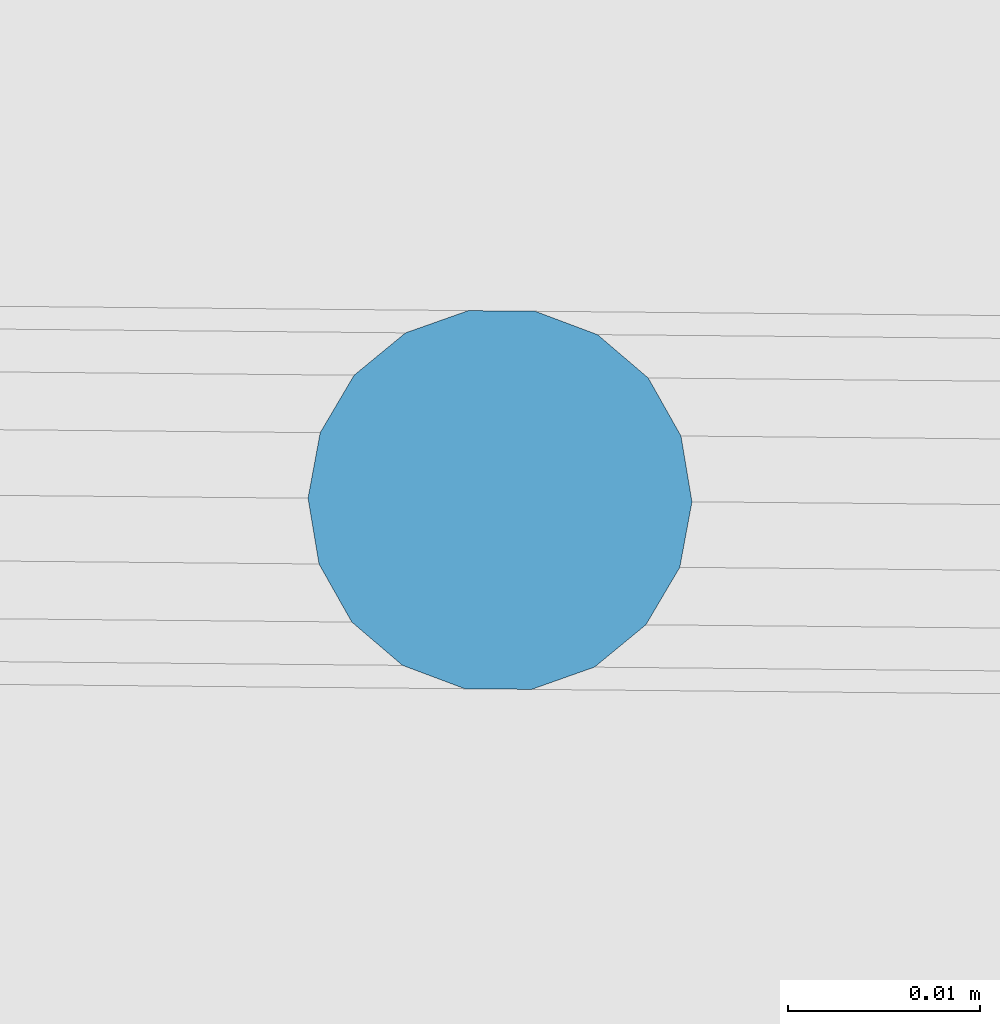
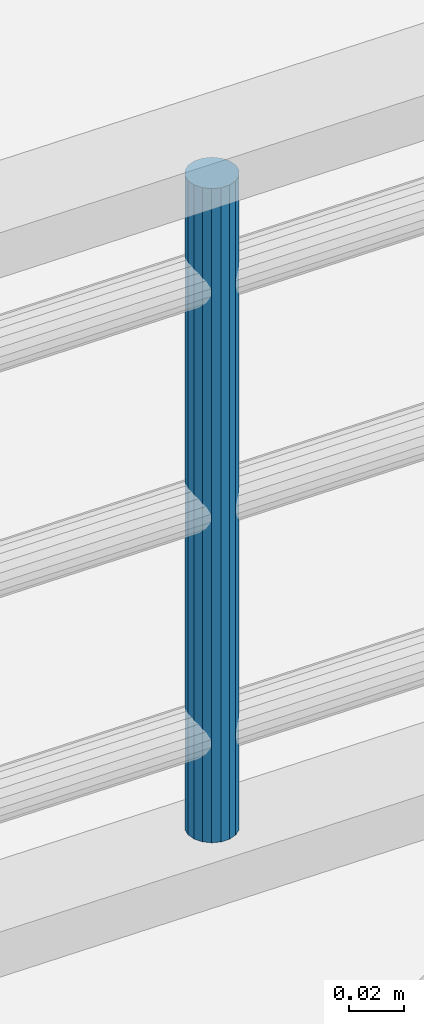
# One storey, part 32 of 72: 1 member, 1 element without a shape of its own.
"""IFC2X3 building model written with IfcOpenShell, lengths in centimetres."""

from ifc_helpers import new_model, entity, si_unit, converted_unit, direction, frame, origin, origin_with_axes, place, context, subcontext, project, spatial, faceted_brep, material, type_object, element, aggregate, save


model = new_model("IFC2X3")

# Units and contexts
model_context = context("Model", 3, precision=0.0001, world=origin(), true_north=direction((0.225632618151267, 0.974212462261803, 0.0)))
body_context = subcontext(model_context, "Body", "Model", "MODEL_VIEW")
ifc_project = project(units=[si_unit("LENGTHUNIT", "METRE", prefix="CENTI"), si_unit("AREAUNIT", "SQUARE_METRE", prefix="CENTI"), si_unit("VOLUMEUNIT", "CUBIC_METRE", prefix="CENTI"), converted_unit("PLANEANGLEUNIT", "DEGREE", entity("IfcRatioMeasure", 0.0174532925), si_unit("PLANEANGLEUNIT", "RADIAN"), dimensions=[0, 0, 0, 0, 0, 0, 0])], contexts=[model_context])

# Site, building, storey
site_placement = place(None, origin_with_axes())
site = spatial("IfcSite", under=ifc_project, at=site_placement, Name="Default Site", CompositionType="ELEMENT")
building_placement = place(site_placement, origin_with_axes())
building = spatial("IfcBuilding", under=site, at=building_placement, Name="Default Building", CompositionType="ELEMENT")
storey_placement = place(building_placement, frame((0.0, 0.0, 853.910374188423), z_axis=(0.0, 0.0, 1.0), x_axis=(1.0, 0.0, 0.0)))
storey = spatial("IfcBuildingStorey", under=building, at=storey_placement, Name="Niveau 2", CompositionType="ELEMENT", Elevation=853.910374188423)

# Assembly, member
building_element_proxy_type = type_object("IfcBuildingElementProxyType", Name="Type Object", PredefinedType="NOTDEFINED")
assembly_placement = place(storey_placement, frame((1081.02208703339, -852.418210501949, 11.9999999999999), z_axis=(0.0, 0.0, 1.0), x_axis=(-0.999957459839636, 0.00922380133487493, 0.0)))
assembly = element("IfcElementAssembly", 1, at=assembly_placement, inside=storey, type_object=building_element_proxy_type, Name="Panneau 1702017", ObjectType="Precast panel", PredefinedType="USERDEFINED")
ifc_material = material(Name="Aluminium satiné")
member_placement = place(assembly_placement, frame((27.4396926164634, 0.342020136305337, 31.000000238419), z_axis=(0.0, 0.0, 1.0), x_axis=(0.500002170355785, -0.866024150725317, 0.0)))
member = element("IfcMember", 2, at=member_placement, material=ifc_material, Name="4294967187", context=body_context, shape_type="Brep", body=[
    faceted_brep([(-1.72084568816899e-13, -2.72004641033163e-13, 1.66533453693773e-13), (-0.347296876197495, -1.99840144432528e-13, 1.66533453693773e-13), (-0.673647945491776, -0.118779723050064, 1.66533453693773e-13), (-0.939693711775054, -0.342018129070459, 1.66533453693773e-13), (-1.11334216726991, -0.642784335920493, 1.66533453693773e-13), (-1.17365112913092, -0.984805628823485, 1.66533453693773e-13), (-1.11334356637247, -1.32682410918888, 1.66533453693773e-13), (-0.939696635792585, -1.62759289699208, 1.66533453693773e-13), (-0.673653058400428, -1.85083187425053, 1.66533453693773e-13), (-0.347301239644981, -1.96961451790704, 1.66533453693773e-13), (-4.36344765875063e-06, -1.96961451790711, 1.66533453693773e-13), (0.32634670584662, -1.85083479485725, 1.66533453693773e-13), (0.592392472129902, -1.62759638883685, 1.66533453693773e-13), (0.766040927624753, -1.32683018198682, 1.66533453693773e-13), (0.826349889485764, -0.98480888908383, 1.66533453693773e-13), (0.766042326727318, -0.64279040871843, 1.66533453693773e-13), (0.592395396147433, -0.342021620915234, 1.66533453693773e-13), (0.326351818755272, -0.118782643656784, 1.66533453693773e-13), (0.326351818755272, -0.118782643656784, -29.0000002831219), (0.592395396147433, -0.342021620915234, -29.0000002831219), (0.766042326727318, -0.64279040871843, -29.0000002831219), (0.826349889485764, -0.98480888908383, -29.0000002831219), (0.766040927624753, -1.32683018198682, -29.0000002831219), (0.592392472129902, -1.62759638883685, -29.0000002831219), (0.32634670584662, -1.85083479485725, -29.0000002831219), (-4.36344765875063e-06, -1.96961451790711, -29.0000002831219), (-0.347301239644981, -1.96961451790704, -29.0000002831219), (-0.673653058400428, -1.85083187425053, -29.0000002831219), (-0.939696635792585, -1.62759289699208, -29.0000002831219), (-1.11334356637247, -1.32682410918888, -29.0000002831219), (-1.17365112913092, -0.984805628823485, -29.0000002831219), (-1.11334216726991, -0.642784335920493, -29.0000002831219), (-0.939693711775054, -0.342018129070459, -29.0000002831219), (-0.673647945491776, -0.118779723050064, -29.0000002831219), (-0.347296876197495, -1.99840144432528e-13, -29.0000002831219), (-1.72084568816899e-13, -2.72004641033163e-13, -29.0000002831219), (0.59239577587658, -0.342021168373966, 1.66533453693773e-13), (0.59239577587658, -0.342021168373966, -29.0000002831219), (0.766043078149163, -0.642789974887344, 1.66533453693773e-13), (0.766043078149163, -0.642789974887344, -29.0000002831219), (0.826348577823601, -0.9848091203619, 1.66533453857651e-13), (0.826348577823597, -0.984809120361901, -29.0000002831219), (0.766042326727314, -0.642790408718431, -29.0000002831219), (0.766041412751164, -1.32683026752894, 1.66533453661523e-13), (0.766041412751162, -1.32683026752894, -29.0000002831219), (0.826349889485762, -0.984808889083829, -29.0000002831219), (0.5923924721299, -1.62759638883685, 1.66533453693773e-13), (0.5923924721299, -1.62759638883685, -29.0000002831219), (0.326346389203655, -1.85083441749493, 1.66533453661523e-13), (0.326346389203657, -1.85083441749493, -29.0000002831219), (0.592392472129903, -1.62759638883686, -29.0000002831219), (-3.90791553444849e-06, -1.96961576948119, 1.66533453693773e-13), (-3.90791553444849e-06, -1.96961576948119, -29.0000002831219), (-0.347301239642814, -1.96961365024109, 1.66533453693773e-13), (-0.347301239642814, -1.96961365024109, -29.0000002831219), (-0.673652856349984, -1.85083131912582, 1.66533453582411e-13), (-0.673652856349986, -1.85083131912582, -29.0000002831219), (-0.347301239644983, -1.96961451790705, -29.0000002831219), (-0.939697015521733, -1.62759334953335, 1.66533453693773e-13), (-0.939697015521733, -1.62759334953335, -29.0000002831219), (-1.11334431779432, -1.32682454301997, 1.66533453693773e-13), (-1.11334431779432, -1.32682454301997, -29.0000002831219), (-1.17364981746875, -0.984805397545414, 1.66533453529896e-13), (-1.17364981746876, -0.984805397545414, -29.0000002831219), (-1.11334356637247, -1.32682410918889, -29.0000002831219), (-1.11334265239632, -0.642784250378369, 1.66533453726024e-13), (-1.11334265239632, -0.642784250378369, -29.0000002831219), (-1.17365112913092, -0.984805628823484, -29.0000002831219), (-0.939693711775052, -0.34201812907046, 1.66533453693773e-13), (-0.939693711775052, -0.34201812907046, -29.0000002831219), (-0.67364762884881, -0.118780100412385, 1.66533453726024e-13), (-0.673647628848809, -0.118780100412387, -29.0000002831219), (-0.939693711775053, -0.342018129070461, -29.0000002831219), (-0.347297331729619, 1.25157387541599e-06, 1.66533453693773e-13), (-0.347297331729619, 1.25157387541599e-06, -29.0000002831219), (-2.33980998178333e-12, -8.67666222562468e-07, 1.66533453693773e-13), (-2.33980998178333e-12, -8.67666222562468e-07, -29.0000002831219), (0.326351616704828, -0.118783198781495, 1.66533453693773e-13), (0.326351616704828, -0.118783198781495, -29.0000002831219)], [[[0, 1, 2, 3, 4, 5, 6, 7, 8, 9, 10, 11, 12, 13, 14, 15, 16, 17]], [[18, 19, 20, 21, 22, 23, 24, 25, 26, 27, 28, 29, 30, 31, 32, 33, 34, 35]], [[17, 36, 37, 18]], [[16, 38, 39, 19]], [[15, 40, 41, 42]], [[14, 43, 44, 45]], [[13, 46, 47, 22]], [[12, 48, 49, 50]], [[11, 51, 52, 24]], [[10, 53, 54, 25]], [[9, 55, 56, 57]], [[8, 58, 59, 27]], [[7, 60, 61, 28]], [[6, 62, 63, 64]], [[5, 65, 66, 67]], [[4, 68, 69, 31]], [[3, 70, 71, 72]], [[2, 73, 74, 33]], [[1, 75, 76, 34]], [[0, 77, 78, 35]]]),
])
aggregate(assembly, [member])

save(model, "model.ifc")
